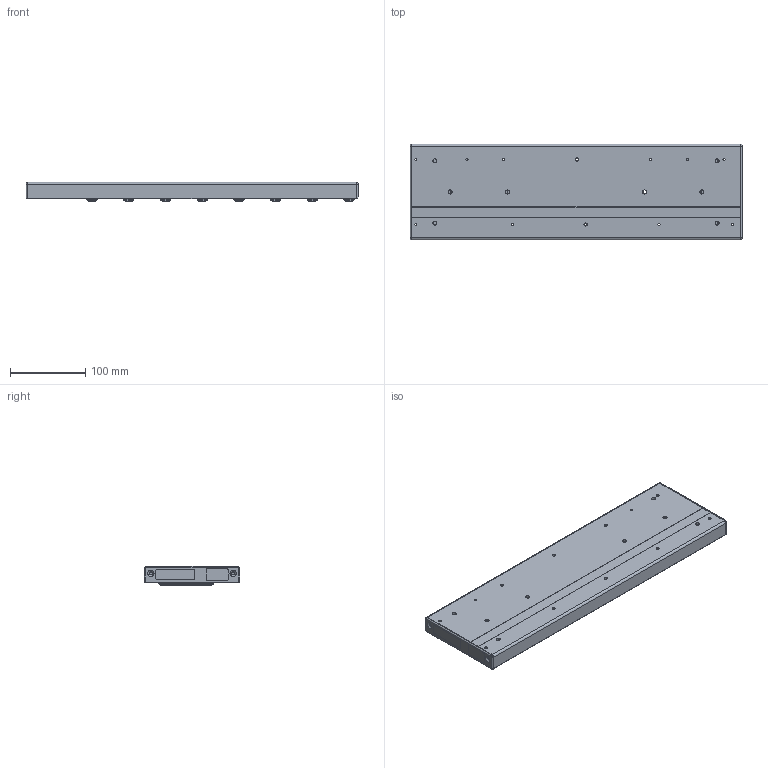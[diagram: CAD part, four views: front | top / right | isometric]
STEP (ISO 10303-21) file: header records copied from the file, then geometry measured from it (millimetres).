
FILE_DESCRIPTION((''),'2;1');
FILE_NAME('CU_CFP-BP-8','2007-07-16T',('chrisj'),(''),'PRO/ENGINEER BY PARAMETRIC TECHNOLOGY CORPORATION, 2006300','PRO/ENGINEER BY PARAMETRIC TECHNOLOGY CORPORATION, 2006300','');
FILE_SCHEMA(('AUTOMOTIVE_DESIGN_CC2 { 1 2 10303 214 -1 1 5 2 }'));
Products named in the file (1): CU_CFP-BP-8
Bounding box: 440.94 x 127 x 25.79 mm (x, y, z)
Volume: 514519.9 mm3; surface area: 338749.3 mm2
Topology: 17 solids, 17 shells, 4292 faces, 10957 edges, 7061 vertices
Faces by surface type: plane 2733, cylinder 1025, cone 228, torus 196, bspline 110
Entity records: 139860 total; most frequent: CARTESIAN_POINT 35780, ORIENTED_EDGE 21914, DIRECTION 20651, EDGE_CURVE 10957, VECTOR 8155, LINE 8155, VERTEX_POINT 7061, AXIS2_PLACEMENT_3D 6248
